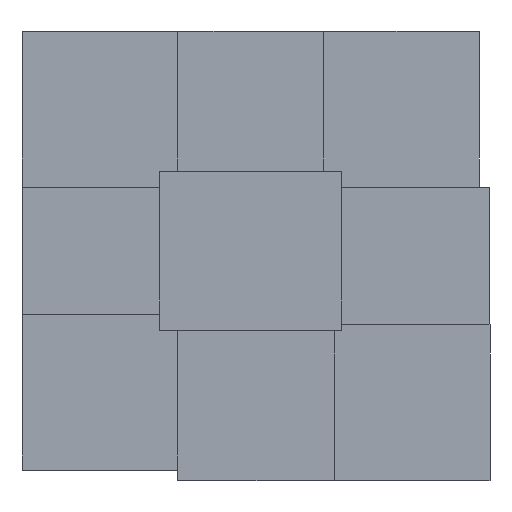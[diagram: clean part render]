
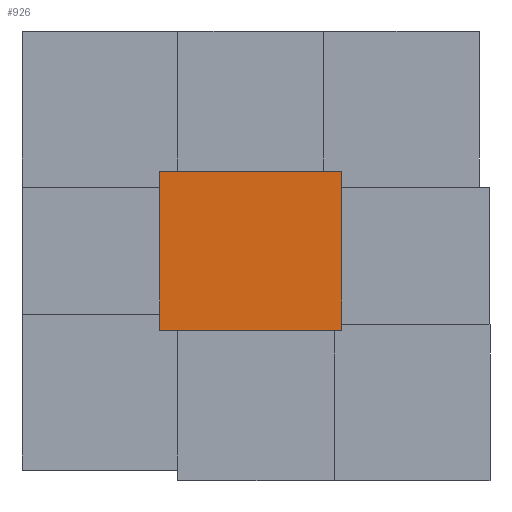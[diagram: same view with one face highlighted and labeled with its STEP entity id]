
A CAD part, left-side view. The second image highlights one B-rep face of the part: STEP entity #926.
In plain terms, the highlighted planar face has unit normal (-1, 0, 0).
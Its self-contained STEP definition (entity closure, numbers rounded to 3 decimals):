
#808=CARTESIAN_POINT('Line Origine',(0.,0.,51.)) ;
#812=CARTESIAN_POINT('Vertex',(0.,0.,0.)) ;
#814=CARTESIAN_POINT('Vertex',(0.,0.,102.)) ;
#883=CARTESIAN_POINT('Vertex',(0.,117.,0.)) ;
#886=CARTESIAN_POINT('Line Origine',(0.,117.,51.)) ;
#890=CARTESIAN_POINT('Vertex',(0.,117.,102.)) ;
#905=CARTESIAN_POINT('Axis2P3D Location',(0.,117.,0.)) ;
#910=CARTESIAN_POINT('Line Origine',(0.,58.5,0.)) ;
#915=CARTESIAN_POINT('Line Origine',(0.,58.5,102.)) ;
#809=DIRECTION('Vector Direction',(0.,0.,1.)) ;
#887=DIRECTION('Vector Direction',(0.,0.,1.)) ;
#906=DIRECTION('Axis2P3D Direction',(-1.,0.,0.)) ;
#907=DIRECTION('Axis2P3D XDirection',(0.,-1.,0.)) ;
#911=DIRECTION('Vector Direction',(0.,-1.,0.)) ;
#916=DIRECTION('Vector Direction',(0.,-1.,0.)) ;
#908=AXIS2_PLACEMENT_3D('Plane Axis2P3D',#905,#906,#907) ;
#921=ORIENTED_EDGE('',*,*,#892,.F.) ;
#922=ORIENTED_EDGE('',*,*,#914,.T.) ;
#923=ORIENTED_EDGE('',*,*,#816,.T.) ;
#924=ORIENTED_EDGE('',*,*,#919,.F.) ;
#810=VECTOR('Line Direction',#809,1.) ;
#888=VECTOR('Line Direction',#887,1.) ;
#912=VECTOR('Line Direction',#911,1.) ;
#917=VECTOR('Line Direction',#916,1.) ;
#926=ADVANCED_FACE('Body.2-molde-superior',(#925),#909,.T.) ;
#816=EDGE_CURVE('',#813,#815,#811,.T.) ;
#892=EDGE_CURVE('',#884,#891,#889,.T.) ;
#914=EDGE_CURVE('',#884,#813,#913,.T.) ;
#919=EDGE_CURVE('',#891,#815,#918,.T.) ;
#920=EDGE_LOOP('',(#921,#922,#923,#924)) ;
#925=FACE_OUTER_BOUND('',#920,.T.) ;
#811=LINE('Line',#808,#810) ;
#889=LINE('Line',#886,#888) ;
#913=LINE('Line',#910,#912) ;
#918=LINE('Line',#915,#917) ;
#909=PLANE('',#908) ;
#813=VERTEX_POINT('',#812) ;
#815=VERTEX_POINT('',#814) ;
#884=VERTEX_POINT('',#883) ;
#891=VERTEX_POINT('',#890) ;
